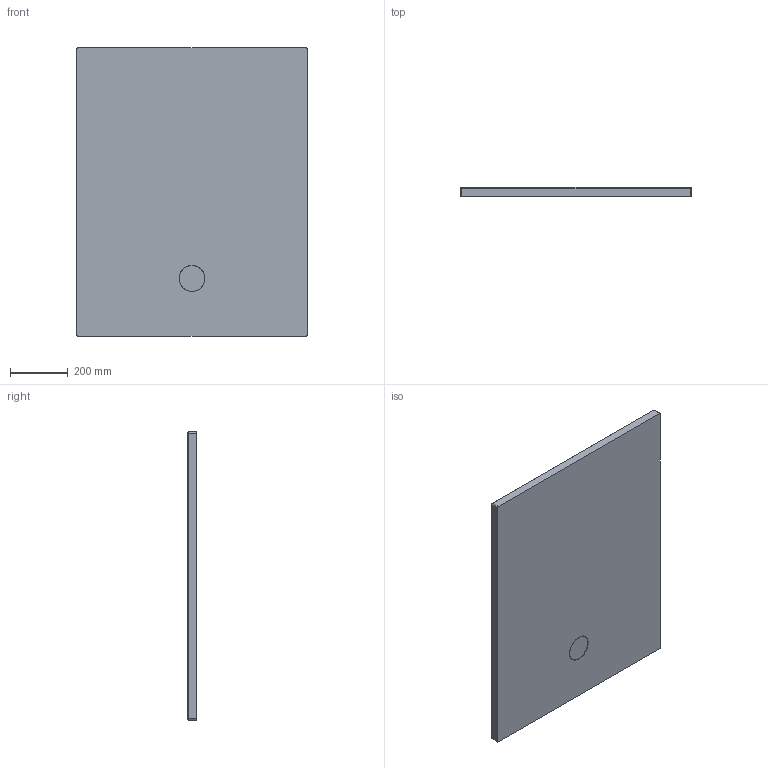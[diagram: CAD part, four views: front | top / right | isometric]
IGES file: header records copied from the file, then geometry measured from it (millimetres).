
Start section: SolidWorks IGES file using analytic representation for surfaces
Global section: file name: D:\Users\M.Szymanski\Desktop\Brodziki\Nias\B_M_NIAS_100x80x1,5.IGS; native system: SolidWorks 2011; preprocessor: SolidWorks 2011; author: M.Szymanski; date: 180222.141717; units: millimetre
Bounding box: 800 x 30 x 1000 mm (x, y, z)
Surface area: 1727519.3 mm2 (no closed solid volume)
Topology: 0 solids, 0 shells, 45 faces, 662 edges, 661 vertices
Faces by surface type: bspline 25, revolution 20
